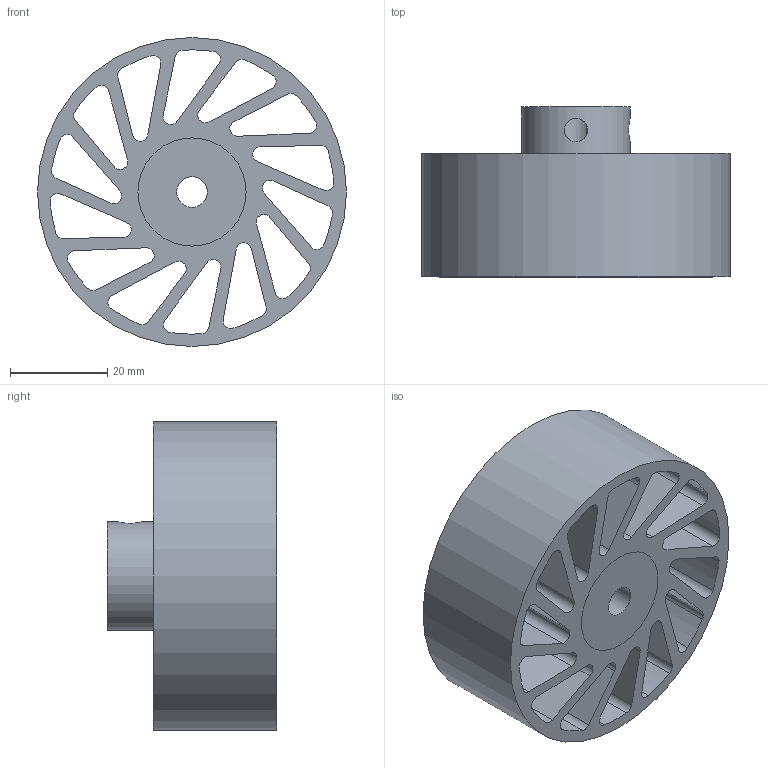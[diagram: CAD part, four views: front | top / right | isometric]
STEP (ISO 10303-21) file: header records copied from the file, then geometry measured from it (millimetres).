
FILE_DESCRIPTION(/* description */ (''),/* implementation_level */ '2;1');
FILE_NAME(/* name */ 'NCW-300-XXX-YYY.stp',/* time_stamp */ '2023-02-01T16:56:55-06:00',/* author */ ('AG'),/* organization */ ('Meridian Laboratory'),/* preprocessor_version */ 'ST-DEVELOPER v18.1',/* originating_system */ 'Autodesk Inventor 2022',/* authorisation */ '');
FILE_SCHEMA (('AUTOMOTIVE_DESIGN { 1 0 10303 214 3 1 1 }'));
Length unit declared in the file: inch
Products named in the file (1): NCW-300
Bounding box: 63.5 x 34.92 x 63.5 mm (x, y, z)
Volume: 47392.2 mm3; surface area: 29016.1 mm2
Topology: 2 solids, 2 shells, 94 faces, 279 edges, 188 vertices
Faces by surface type: cylinder 62, plane 32
Full cylindrical faces by diameter (mm): 4.826 x2, 6.363 x1, 22.225 x2, 63.5 x1
Entity records: 3575 total; most frequent: CARTESIAN_POINT 716, DIRECTION 580, ORIENTED_EDGE 558, EDGE_CURVE 279, AXIS2_PLACEMENT_3D 217, VERTEX_POINT 188, LINE 146, VECTOR 146
